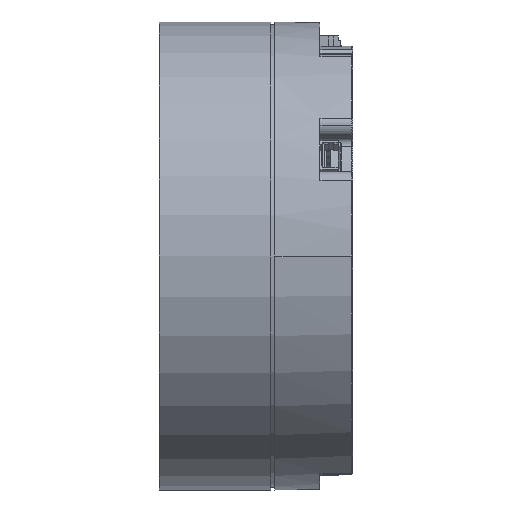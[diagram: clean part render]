
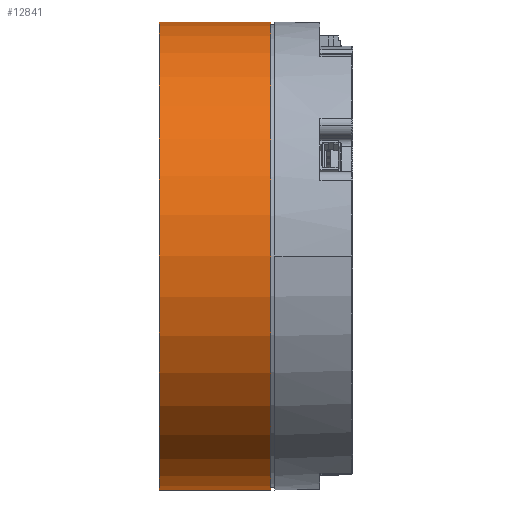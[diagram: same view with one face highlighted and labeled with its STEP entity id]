
A CAD part, left-side view. The second image highlights one B-rep face of the part: STEP entity #12841.
In plain terms, the highlighted cylindrical face has radius 39.5 mm (diameter 79 mm), a partial arc.
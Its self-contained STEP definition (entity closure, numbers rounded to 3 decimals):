
#3750 = ORIENTED_EDGE ( 'NONE', *, *, #16691, .F. ) ;
#4156 = DIRECTION ( 'NONE',  ( 0., 1., 0. ) ) ;
#4786 = CARTESIAN_POINT ( 'NONE',  ( 0., -7.3, 0. ) ) ;
#9910 = CIRCLE ( 'NONE', #48142, 39.5 ) ;
#11027 = CARTESIAN_POINT ( 'NONE',  ( 0., 11.5, 39.5 ) ) ;
#12841 = ADVANCED_FACE ( 'NONE', ( #24255 ), #75399, .T. ) ;
#13209 = DIRECTION ( 'NONE',  ( 0., 0., 1. ) ) ;
#16152 = DIRECTION ( 'NONE',  ( 0., -1., 0. ) ) ;
#16691 = EDGE_CURVE ( 'NONE', #68951, #73629, #9910, .T. ) ;
#18643 = DIRECTION ( 'NONE',  ( -0.596, 0., -0.803 ) ) ;
#18961 = CARTESIAN_POINT ( 'NONE',  ( 0., 11.5, 0. ) ) ;
#21481 = ORIENTED_EDGE ( 'NONE', *, *, #64068, .T. ) ;
#24255 = FACE_OUTER_BOUND ( 'NONE', #29348, .T. ) ;
#24871 = DIRECTION ( 'NONE',  ( 0., -1., 0. ) ) ;
#29348 = EDGE_LOOP ( 'NONE', ( #59014, #3750, #21481, #92467 ) ) ;
#31815 = CARTESIAN_POINT ( 'NONE',  ( 0., -7.3, -39.5 ) ) ;
#36862 = AXIS2_PLACEMENT_3D ( 'NONE', #4786, #75977, #18643 ) ;
#40493 = VECTOR ( 'NONE', #24871, 1000. ) ;
#42474 = AXIS2_PLACEMENT_3D ( 'NONE', #90214, #16152, #60581 ) ;
#45022 = VERTEX_POINT ( 'NONE', #31815 ) ;
#45433 = CARTESIAN_POINT ( 'NONE',  ( 0., 11.5, -39.5 ) ) ;
#47180 = CARTESIAN_POINT ( 'NONE',  ( 0., -7.3, 39.5 ) ) ;
#48142 = AXIS2_PLACEMENT_3D ( 'NONE', #18961, #4156, #13209 ) ;
#50917 = EDGE_CURVE ( 'NONE', #79251, #45022, #65822, .T. ) ;
#56942 = LINE ( 'NONE', #86076, #70095 ) ;
#59014 = ORIENTED_EDGE ( 'NONE', *, *, #77888, .F. ) ;
#60581 = DIRECTION ( 'NONE',  ( 0., 0., -1. ) ) ;
#64068 = EDGE_CURVE ( 'NONE', #68951, #45022, #56942, .T. ) ;
#65822 = CIRCLE ( 'NONE', #36862, 39.5 ) ;
#68951 = VERTEX_POINT ( 'NONE', #45433 ) ;
#70095 = VECTOR ( 'NONE', #78909, 1000. ) ;
#72257 = CARTESIAN_POINT ( 'NONE',  ( 0., 11.5, 39.5 ) ) ;
#73629 = VERTEX_POINT ( 'NONE', #72257 ) ;
#75399 = CYLINDRICAL_SURFACE ( 'NONE', #42474, 39.5 ) ;
#75977 = DIRECTION ( 'NONE',  ( 0., -1., 0. ) ) ;
#77888 = EDGE_CURVE ( 'NONE', #73629, #79251, #90355, .T. ) ;
#78909 = DIRECTION ( 'NONE',  ( 0., -1., 0. ) ) ;
#79251 = VERTEX_POINT ( 'NONE', #47180 ) ;
#86076 = CARTESIAN_POINT ( 'NONE',  ( 0., 11.5, -39.5 ) ) ;
#90214 = CARTESIAN_POINT ( 'NONE',  ( 0., 11.5, 0. ) ) ;
#90355 = LINE ( 'NONE', #11027, #40493 ) ;
#92467 = ORIENTED_EDGE ( 'NONE', *, *, #50917, .F. ) ;
